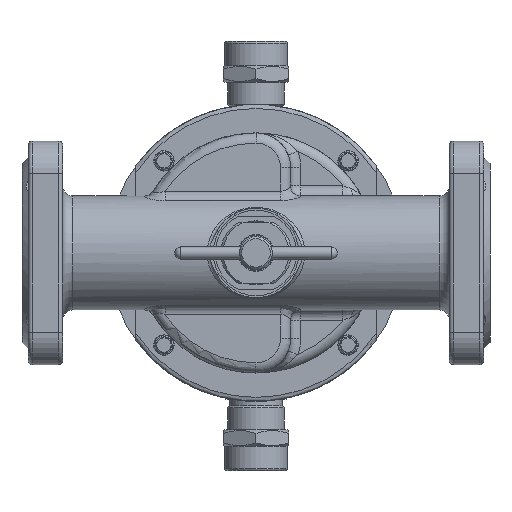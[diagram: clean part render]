
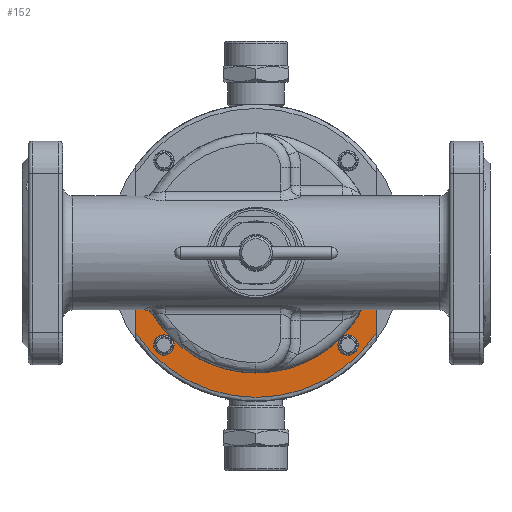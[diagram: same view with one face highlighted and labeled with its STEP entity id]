
A CAD part, front view. The second image highlights one B-rep face of the part: STEP entity #152.
In plain terms, the highlighted planar face has unit normal (0, -1, 0).
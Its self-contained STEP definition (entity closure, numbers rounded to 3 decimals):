
#152=ADVANCED_FACE('',(#4279),#4281,.F.);
#4279=FACE_OUTER_BOUND('',#4280,.T.);
#4280=EDGE_LOOP('',(#21381,#21382,#21383,#21384,#21385,#21386,#21387,#21388,#21389,
#21390));
#4281=PLANE('',#4282);
#4282=AXIS2_PLACEMENT_3D('',#4283,#4284,#4285);
#4283=CARTESIAN_POINT('',(0.,39.5,0.));
#4284=DIRECTION('',(0.,1.,0.));
#4285=DIRECTION('',(-1.,0.,0.));
#21381=ORIENTED_EDGE('',*,*,#32762,.F.);
#21382=ORIENTED_EDGE('',*,*,#32763,.F.);
#21383=ORIENTED_EDGE('',*,*,#32662,.F.);
#21384=ORIENTED_EDGE('',*,*,#32684,.F.);
#21385=ORIENTED_EDGE('',*,*,#32764,.F.);
#21386=ORIENTED_EDGE('',*,*,#32676,.F.);
#21387=ORIENTED_EDGE('',*,*,#32664,.F.);
#21388=ORIENTED_EDGE('',*,*,#32765,.F.);
#21389=ORIENTED_EDGE('',*,*,#32766,.F.);
#21390=ORIENTED_EDGE('',*,*,#32663,.F.);
#32662=EDGE_CURVE('',#37586,#37674,#37675,.T.);
#32663=EDGE_CURVE('',#37674,#37676,#37677,.T.);
#32664=EDGE_CURVE('',#37676,#37580,#37678,.T.);
#32676=EDGE_CURVE('',#37580,#37699,#37700,.T.);
#32684=EDGE_CURVE('',#37712,#37586,#37714,.T.);
#32762=EDGE_CURVE('',#37840,#37674,#37841,.T.);
#32763=EDGE_CURVE('',#37674,#37840,#37842,.T.);
#32764=EDGE_CURVE('',#37699,#37712,#37843,.T.);
#32765=EDGE_CURVE('',#37844,#37676,#37845,.T.);
#32766=EDGE_CURVE('',#37676,#37844,#37846,.T.);
#37580=VERTEX_POINT('',#45787);
#37586=VERTEX_POINT('',#45801);
#37674=VERTEX_POINT('',#46055);
#37675=CIRCLE('',#46056,59.);
#37676=VERTEX_POINT('',#46060);
#37677=CIRCLE('',#46061,59.);
#37678=CIRCLE('',#46065,59.);
#37699=VERTEX_POINT('',#46213);
#37700=LINE('',#46214,#46215);
#37712=VERTEX_POINT('',#46345);
#37714=LINE('',#46401,#46402);
#37840=VERTEX_POINT('',#46907);
#37841=CIRCLE('',#46908,5.);
#37842=CIRCLE('',#46912,5.);
#37843=CIRCLE('',#46916,71.);
#37844=VERTEX_POINT('',#46920);
#37845=CIRCLE('',#46921,5.);
#37846=CIRCLE('',#46925,5.);
#45787=CARTESIAN_POINT('',(59.,39.5,0.));
#45801=CARTESIAN_POINT('',(-59.,39.5,0.));
#46055=CARTESIAN_POINT('',(-41.719,39.5,-41.719));
#46056=AXIS2_PLACEMENT_3D('',#46057,#46058,#46059);
#46057=CARTESIAN_POINT('',(0.,39.5,0.));
#46058=DIRECTION('',(0.,-1.,0.));
#46059=DIRECTION('',(-1.,0.,0.));
#46060=CARTESIAN_POINT('',(41.719,39.5,-41.719));
#46061=AXIS2_PLACEMENT_3D('',#46062,#46063,#46064);
#46062=CARTESIAN_POINT('',(0.,39.5,0.));
#46063=DIRECTION('',(0.,-1.,0.));
#46064=DIRECTION('',(-0.707,0.,-0.707));
#46065=AXIS2_PLACEMENT_3D('',#46066,#46067,#46068);
#46066=CARTESIAN_POINT('',(0.,39.5,0.));
#46067=DIRECTION('',(0.,-1.,0.));
#46068=DIRECTION('',(0.707,0.,-0.707));
#46213=CARTESIAN_POINT('',(59.,39.5,-39.497));
#46214=CARTESIAN_POINT('',(59.,39.5,0.));
#46215=VECTOR('',#46216,1.);
#46216=DIRECTION('',(0.,0.,-1.));
#46345=CARTESIAN_POINT('',(-59.,39.5,-39.497));
#46401=CARTESIAN_POINT('',(-59.,39.5,-39.497));
#46402=VECTOR('',#46403,1.);
#46403=DIRECTION('',(0.,0.,1.));
#46907=CARTESIAN_POINT('',(-42.051,39.5,-49.093));
#46908=AXIS2_PLACEMENT_3D('',#46909,#46910,#46911);
#46909=CARTESIAN_POINT('',(-45.255,39.5,-45.255));
#46910=DIRECTION('',(0.,-1.,0.));
#46911=DIRECTION('',(0.641,0.,-0.768));
#46912=AXIS2_PLACEMENT_3D('',#46913,#46914,#46915);
#46913=CARTESIAN_POINT('',(-45.255,39.5,-45.255));
#46914=DIRECTION('',(0.,-1.,0.));
#46915=DIRECTION('',(0.707,0.,0.707));
#46916=AXIS2_PLACEMENT_3D('',#46917,#46918,#46919);
#46917=CARTESIAN_POINT('',(0.,39.5,0.));
#46918=DIRECTION('',(0.,1.,0.));
#46919=DIRECTION('',(0.831,0.,-0.556));
#46920=CARTESIAN_POINT('',(49.093,39.5,-42.051));
#46921=AXIS2_PLACEMENT_3D('',#46922,#46923,#46924);
#46922=CARTESIAN_POINT('',(45.255,39.5,-45.255));
#46923=DIRECTION('',(0.,-1.,0.));
#46924=DIRECTION('',(0.768,0.,0.641));
#46925=AXIS2_PLACEMENT_3D('',#46926,#46927,#46928);
#46926=CARTESIAN_POINT('',(45.255,39.5,-45.255));
#46927=DIRECTION('',(0.,-1.,0.));
#46928=DIRECTION('',(-0.707,0.,0.707));
